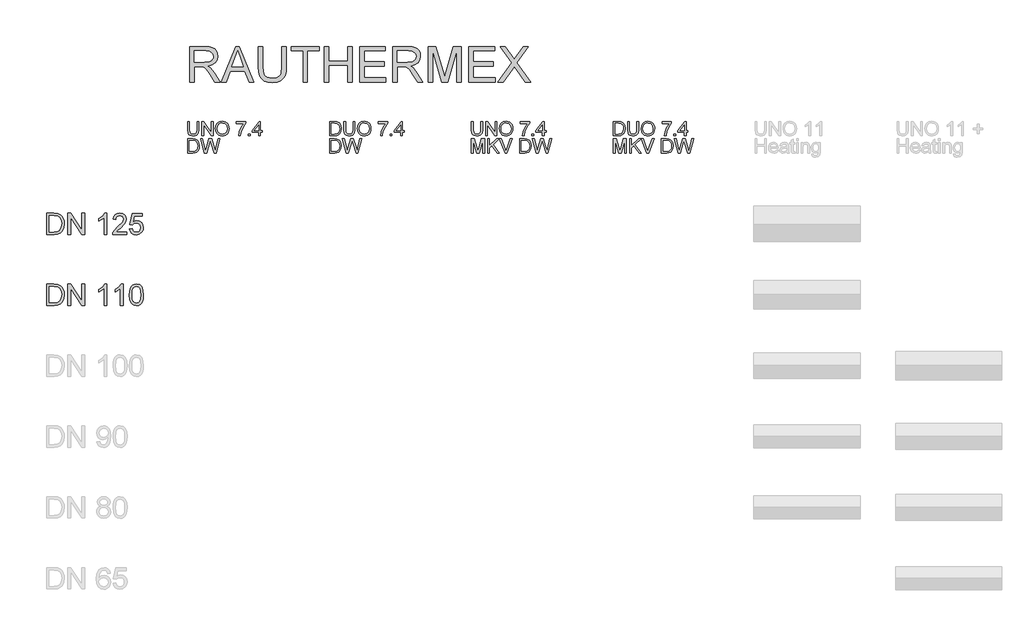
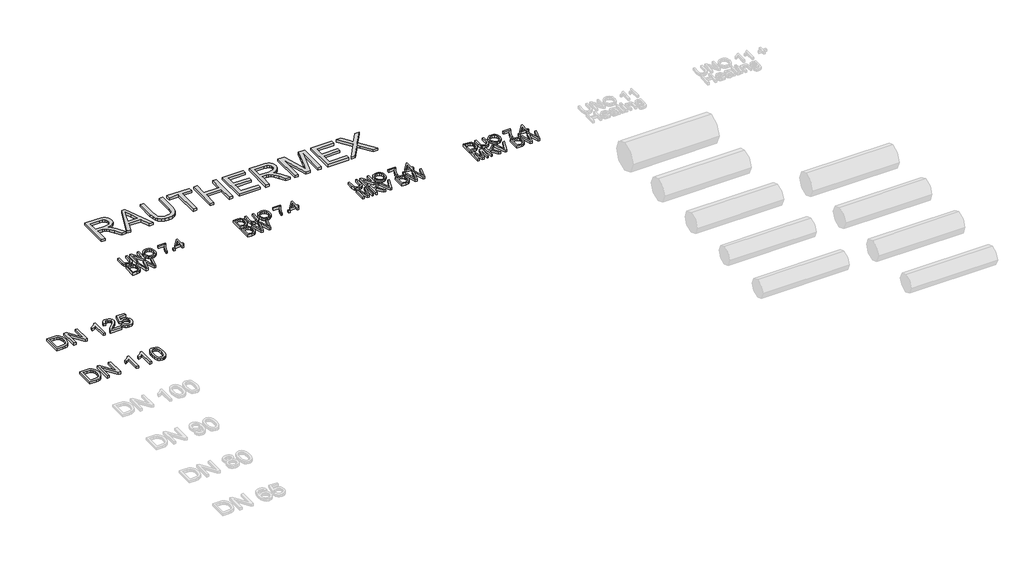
# One storey, part 30 of 44: 7 proxies.
"""IFC4 building model written with IfcOpenShell, lengths in millimetres."""

from ifc_helpers import new_model, si_unit, origin, origin_with_axes, place, context, project, spatial, polyline, outline, extrude, element, save

model = new_model("IFC4")

# Units and contexts
model_context = context("Model", 3, world=origin())
ifc_project = project(units=[si_unit("LENGTHUNIT", "METRE", prefix="MILLI")], contexts=[model_context])

# Site, building, storey
site = spatial("IfcSite", under=ifc_project)
building = spatial("IfcBuilding", under=site)
storey = spatial("IfcBuildingStorey", under=building, Name="REHAU Starting view", Elevation=0.0)

# Proxies
placement = place(None, origin())
element("IfcBuildingElementProxy", 1, Name="100", ObjectType="100", at=placement, inside=storey, context=model_context, shape_type="SweptSolid", body=[
    extrude(outline(polyline([(1076.9118625, 20222.431128), (1089.4689012, 20222.431128), (1089.4689012, 20164.477451), (1086.0598614, 20140.4547567), (1073.7726028, 20125.9847316), (1063.5086951, 20121.8000739), (1050.4734097, 20120.405188), (1027.529836, 20125.2612303), (1019.8901532, 20131.2055902), (1014.8011189, 20139.3265853), (1010.9874089, 20164.477451), (1010.9874089, 20222.431128), (1023.5444477, 20222.431128), (1023.5444477, 20164.9189094), (1026.0215198, 20145.7767829), (1034.5318566, 20136.2976902), (1049.2961874, 20132.9622268), (1062.067824, 20134.6115644), (1070.5597667, 20139.5595772), (1075.3238385, 20149.1980855), (1076.9118625, 20164.9189094), (1076.9118625, 20222.431128)])), origin_with_axes(), (0.0, 0.0, 1.0), 20.0),
    extrude(outline(polyline([(1111.4437191, 20121.9748178), (1111.4437191, 20222.431128), (1124.8836746, 20222.431128), (1177.3681726, 20142.8459897), (1177.3681726, 20222.431128), (1189.9252114, 20222.431128), (1189.9252114, 20121.9748178), (1176.4852558, 20121.9748178), (1124.0007578, 20201.5844816), (1124.0007578, 20121.9748178), (1111.4437191, 20121.9748178)])), origin_with_axes(), (0.0, 0.0, 1.0), 20.0),
    extrude(outline(polyline([(1207.1911397, 20170.8785977), (1210.5388658, 20193.0925389), (1220.5820443, 20209.8986147), (1235.9165921, 20220.4752221), (1255.1384264, 20224.0007578), (1268.3147332, 20222.3452889), (1280.1298766, 20217.3788819), (1289.9400631, 20209.4510249), (1297.1014993, 20198.9112058), (1301.479295, 20186.2683279), (1302.9385603, 20172.0312947), (1301.402653, 20157.6041891), (1296.794931, 20144.7835015), (1289.369846, 20134.2252883), (1279.3818499, 20126.5856055), (1267.667874, 20121.9502924), (1255.06485, 20120.405188), (1241.6862081, 20122.1127736), (1229.8036197, 20127.2355304), (1220.0179586, 20135.3105402), (1212.9300988, 20145.8748848), (1207.1911397, 20170.8785977)]), holes=[polyline([(1219.7481785, 20170.7559704), (1222.2589731, 20155.0412778), (1229.7913569, 20143.0667189), (1241.1129253, 20135.4883498), (1254.9912736, 20132.9622268), (1269.071957, 20135.5128753), (1280.4119195, 20143.1648208), (1287.889121, 20155.5072617), (1290.3815215, 20172.1293965), (1286.1140904, 20192.8534156), (1273.6428907, 20206.575414), (1255.2120028, 20211.4437191), (1241.7046022, 20209.0984714), (1230.2205526, 20202.0627282), (1222.366272, 20189.5455433), (1219.7481785, 20170.7559704)])]), origin_with_axes(), (0.0, 0.0, 1.0), 20.0),
    extrude(outline(polyline([(1354.7363452, 20208.3044594), (1354.7363452, 20220.8614981), (1420.6607988, 20220.8614981), (1420.6607988, 20210.7079551), (1401.9601307, 20183.6931539), (1387.6495211, 20149.2716619), (1382.9896824, 20121.9748178), (1370.4326437, 20121.9748178), (1375.4235761, 20150.3017315), (1389.121049, 20182.3197278), (1408.10376, 20208.3044594), (1354.7363452, 20208.3044594)])), origin_with_axes(), (0.0, 0.0, 1.0), 20.0),
    extrude(outline(polyline([(1437.9267271, 20121.9748178), (1437.9267271, 20134.5318566), (1450.4837658, 20134.5318566), (1450.4837658, 20121.9748178), (1437.9267271, 20121.9748178)])), origin_with_axes(), (0.0, 0.0, 1.0), 20.0),
    extrude(outline(polyline([(1511.6993298, 20121.9748178), (1511.6993298, 20145.5192655), (1466.1800643, 20145.5192655), (1466.1800643, 20158.0763043), (1514.8385895, 20220.8614981), (1524.2563686, 20220.8614981), (1524.2563686, 20158.0763043), (1536.8134074, 20158.0763043), (1536.8134074, 20145.5192655), (1524.2563686, 20145.5192655), (1524.2563686, 20121.9748178), (1511.6993298, 20121.9748178)]), holes=[polyline([(1511.6993298, 20158.0763043), (1511.6993298, 20196.8755921), (1481.6311081, 20158.0763043), (1511.6993298, 20158.0763043)])]), origin_with_axes(), (0.0, 0.0, 1.0), 20.0),
    extrude(outline(polyline([(1010.9874089, 20000.0), (1010.9874089, 20100.4563101), (1045.6418929, 20100.4563101), (1063.5700088, 20099.0093076), (1078.3343395, 20091.823346), (1090.2291907, 20074.6555196), (1094.1777908, 20050.7677153), (1091.5045149, 20030.4974174), (1084.6373844, 20015.8679767), (1075.4648599, 20006.756766), (1063.4596442, 20001.7167826), (1047.3096246, 20000.0), (1010.9874089, 20000.0)]), holes=[polyline([(1023.5444477, 20012.5570388), (1045.7645202, 20012.5570388), (1061.9268025, 20014.3719233), (1071.2464797, 20019.4977457), (1078.8861625, 20031.9689454), (1081.620752, 20050.9639191), (1080.2810484, 20064.6491293), (1076.2619376, 20074.7536214), (1063.2266522, 20085.8881831), (1045.4211637, 20087.8992714), (1023.5444477, 20087.8992714), (1023.5444477, 20012.5570388)])]), origin_with_axes(), (0.0, 0.0, 1.0), 20.0),
    extrude(outline(polyline([(1129.4208859, 20000.0), (1102.02594, 20100.4563101), (1114.9753862, 20100.4563101), (1130.8678884, 20034.4337547), (1135.7729817, 20014.0530922), (1141.0214315, 20032.07931), (1160.9361102, 20100.4563101), (1179.59999, 20100.4563101), (1194.0700152, 20050.8903427), (1204.8366949, 20014.0530922), (1209.5946354, 20033.8451436), (1225.6342904, 20100.4563101), (1238.5837366, 20100.4563101), (1211.1642652, 20000.0), (1197.7488351, 20000.0), (1173.6648272, 20077.5004737), (1170.3048383, 20088.3162043), (1166.5279165, 20075.2931817), (1144.5776241, 20000.0), (1129.4208859, 20000.0)])), origin_with_axes(), (0.0, 0.0, 1.0), 20.0),
])
element("IfcBuildingElementProxy", 2, Name="100", ObjectType="100", at=placement, inside=storey, context=model_context, shape_type="SweptSolid", body=[
    extrude(outline(polyline([(2010.9874089, 20121.9748178), (2010.9874089, 20222.431128), (2045.6418929, 20222.431128), (2063.5700088, 20220.9841255), (2078.3343395, 20213.7981638), (2090.2291907, 20196.6303374), (2094.1777908, 20172.7425332), (2091.5045149, 20152.4722352), (2084.6373844, 20137.8427946), (2075.4648599, 20128.7315838), (2063.4596442, 20123.6916005), (2047.3096246, 20121.9748178), (2010.9874089, 20121.9748178)]), holes=[polyline([(2023.5444477, 20134.5318566), (2045.7645202, 20134.5318566), (2061.9268025, 20136.3467411), (2071.2464797, 20141.4725636), (2078.8861625, 20153.9437632), (2081.620752, 20172.9387369), (2080.2810484, 20186.6239471), (2076.2619376, 20196.7284393), (2063.2266522, 20207.863001), (2045.4211637, 20209.8740892), (2023.5444477, 20209.8740892), (2023.5444477, 20134.5318566)])]), origin_with_axes(), (0.0, 0.0, 1.0), 20.0),
    extrude(outline(polyline([(2177.3681726, 20222.431128), (2189.9252114, 20222.431128), (2189.9252114, 20164.477451), (2186.5161716, 20140.4547567), (2174.2289129, 20125.9847316), (2163.9650053, 20121.8000739), (2150.9297199, 20120.405188), (2127.9861461, 20125.2612303), (2120.3464634, 20131.2055902), (2115.2574291, 20139.3265853), (2111.4437191, 20164.477451), (2111.4437191, 20222.431128), (2124.0007578, 20222.431128), (2124.0007578, 20164.9189094), (2126.4778299, 20145.7767829), (2134.9881668, 20136.2976902), (2149.7524975, 20132.9622268), (2162.5241341, 20134.6115644), (2171.0160768, 20139.5595772), (2175.7801487, 20149.1980855), (2177.3681726, 20164.9189094), (2177.3681726, 20222.431128)])), origin_with_axes(), (0.0, 0.0, 1.0), 20.0),
    extrude(outline(polyline([(2207.1911397, 20170.8785977), (2210.5388658, 20193.0925389), (2220.5820443, 20209.8986147), (2235.9165921, 20220.4752221), (2255.1384264, 20224.0007578), (2268.3147332, 20222.3452889), (2280.1298766, 20217.3788819), (2289.9400631, 20209.4510249), (2297.1014993, 20198.9112058), (2301.479295, 20186.2683279), (2302.9385603, 20172.0312947), (2301.402653, 20157.6041891), (2296.794931, 20144.7835015), (2289.369846, 20134.2252883), (2279.3818499, 20126.5856055), (2267.667874, 20121.9502924), (2255.06485, 20120.405188), (2241.6862081, 20122.1127736), (2229.8036197, 20127.2355304), (2220.0179586, 20135.3105402), (2212.9300988, 20145.8748848), (2207.1911397, 20170.8785977)]), holes=[polyline([(2219.7481785, 20170.7559704), (2222.2589731, 20155.0412778), (2229.7913569, 20143.0667189), (2241.1129253, 20135.4883498), (2254.9912736, 20132.9622268), (2269.071957, 20135.5128753), (2280.4119195, 20143.1648208), (2287.889121, 20155.5072617), (2290.3815215, 20172.1293965), (2286.1140904, 20192.8534156), (2273.6428907, 20206.575414), (2255.2120028, 20211.4437191), (2241.7046022, 20209.0984714), (2230.2205526, 20202.0627282), (2222.366272, 20189.5455433), (2219.7481785, 20170.7559704)])]), origin_with_axes(), (0.0, 0.0, 1.0), 20.0),
    extrude(outline(polyline([(2354.7363452, 20208.3044594), (2354.7363452, 20220.8614981), (2420.6607988, 20220.8614981), (2420.6607988, 20210.7079551), (2401.9601307, 20183.6931539), (2387.6495211, 20149.2716619), (2382.9896824, 20121.9748178), (2370.4326437, 20121.9748178), (2375.4235761, 20150.3017315), (2389.121049, 20182.3197278), (2408.10376, 20208.3044594), (2354.7363452, 20208.3044594)])), origin_with_axes(), (0.0, 0.0, 1.0), 20.0),
    extrude(outline(polyline([(2437.9267271, 20121.9748178), (2437.9267271, 20134.5318566), (2450.4837658, 20134.5318566), (2450.4837658, 20121.9748178), (2437.9267271, 20121.9748178)])), origin_with_axes(), (0.0, 0.0, 1.0), 20.0),
    extrude(outline(polyline([(2511.6993298, 20121.9748178), (2511.6993298, 20145.5192655), (2466.1800643, 20145.5192655), (2466.1800643, 20158.0763043), (2514.8385895, 20220.8614981), (2524.2563686, 20220.8614981), (2524.2563686, 20158.0763043), (2536.8134074, 20158.0763043), (2536.8134074, 20145.5192655), (2524.2563686, 20145.5192655), (2524.2563686, 20121.9748178), (2511.6993298, 20121.9748178)]), holes=[polyline([(2511.6993298, 20158.0763043), (2511.6993298, 20196.8755921), (2481.6311081, 20158.0763043), (2511.6993298, 20158.0763043)])]), origin_with_axes(), (0.0, 0.0, 1.0), 20.0),
    extrude(outline(polyline([(2010.9874089, 20000.0), (2010.9874089, 20100.4563101), (2045.6418929, 20100.4563101), (2063.5700088, 20099.0093076), (2078.3343395, 20091.823346), (2090.2291907, 20074.6555196), (2094.1777908, 20050.7677153), (2091.5045149, 20030.4974174), (2084.6373844, 20015.8679767), (2075.4648599, 20006.756766), (2063.4596442, 20001.7167826), (2047.3096246, 20000.0), (2010.9874089, 20000.0)]), holes=[polyline([(2023.5444477, 20012.5570388), (2045.7645202, 20012.5570388), (2061.9268025, 20014.3719233), (2071.2464797, 20019.4977457), (2078.8861625, 20031.9689454), (2081.620752, 20050.9639191), (2080.2810484, 20064.6491293), (2076.2619376, 20074.7536214), (2063.2266522, 20085.8881831), (2045.4211637, 20087.8992714), (2023.5444477, 20087.8992714), (2023.5444477, 20012.5570388)])]), origin_with_axes(), (0.0, 0.0, 1.0), 20.0),
    extrude(outline(polyline([(2129.4208859, 20000.0), (2102.02594, 20100.4563101), (2114.9753862, 20100.4563101), (2130.8678884, 20034.4337547), (2135.7729817, 20014.0530922), (2141.0214315, 20032.07931), (2160.9361102, 20100.4563101), (2179.59999, 20100.4563101), (2194.0700152, 20050.8903427), (2204.8366949, 20014.0530922), (2209.5946354, 20033.8451436), (2225.6342904, 20100.4563101), (2238.5837366, 20100.4563101), (2211.1642652, 20000.0), (2197.7488351, 20000.0), (2173.6648272, 20077.5004737), (2170.3048383, 20088.3162043), (2166.5279165, 20075.2931817), (2144.5776241, 20000.0), (2129.4208859, 20000.0)])), origin_with_axes(), (0.0, 0.0, 1.0), 20.0),
])
element("IfcBuildingElementProxy", 3, Name="100", ObjectType="100", at=placement, inside=storey, context=model_context, shape_type="SweptSolid", body=[
    extrude(outline(polyline([(3076.9118625, 20222.431128), (3089.4689012, 20222.431128), (3089.4689012, 20164.477451), (3086.0598614, 20140.4547567), (3073.7726028, 20125.9847316), (3063.5086951, 20121.8000739), (3050.4734097, 20120.405188), (3027.529836, 20125.2612303), (3019.8901532, 20131.2055902), (3014.8011189, 20139.3265853), (3010.9874089, 20164.477451), (3010.9874089, 20222.431128), (3023.5444477, 20222.431128), (3023.5444477, 20164.9189094), (3026.0215198, 20145.7767829), (3034.5318566, 20136.2976902), (3049.2961874, 20132.9622268), (3062.067824, 20134.6115644), (3070.5597667, 20139.5595772), (3075.3238385, 20149.1980855), (3076.9118625, 20164.9189094), (3076.9118625, 20222.431128)])), origin_with_axes(), (0.0, 0.0, 1.0), 20.0),
    extrude(outline(polyline([(3111.4437191, 20121.9748178), (3111.4437191, 20222.431128), (3124.8836746, 20222.431128), (3177.3681726, 20142.8459897), (3177.3681726, 20222.431128), (3189.9252114, 20222.431128), (3189.9252114, 20121.9748178), (3176.4852558, 20121.9748178), (3124.0007578, 20201.5844816), (3124.0007578, 20121.9748178), (3111.4437191, 20121.9748178)])), origin_with_axes(), (0.0, 0.0, 1.0), 20.0),
    extrude(outline(polyline([(3207.1911397, 20170.8785977), (3210.5388658, 20193.0925389), (3220.5820443, 20209.8986147), (3235.9165921, 20220.4752221), (3255.1384264, 20224.0007578), (3268.3147332, 20222.3452889), (3280.1298766, 20217.3788819), (3289.9400631, 20209.4510249), (3297.1014993, 20198.9112058), (3301.479295, 20186.2683279), (3302.9385603, 20172.0312947), (3301.402653, 20157.6041891), (3296.794931, 20144.7835015), (3289.369846, 20134.2252883), (3279.3818499, 20126.5856055), (3267.667874, 20121.9502924), (3255.06485, 20120.405188), (3241.6862081, 20122.1127736), (3229.8036197, 20127.2355304), (3220.0179586, 20135.3105402), (3212.9300988, 20145.8748848), (3207.1911397, 20170.8785977)]), holes=[polyline([(3219.7481785, 20170.7559704), (3222.2589731, 20155.0412778), (3229.7913569, 20143.0667189), (3241.1129253, 20135.4883498), (3254.9912736, 20132.9622268), (3269.071957, 20135.5128753), (3280.4119195, 20143.1648208), (3287.889121, 20155.5072617), (3290.3815215, 20172.1293965), (3286.1140904, 20192.8534156), (3273.6428907, 20206.575414), (3255.2120028, 20211.4437191), (3241.7046022, 20209.0984714), (3230.2205526, 20202.0627282), (3222.366272, 20189.5455433), (3219.7481785, 20170.7559704)])]), origin_with_axes(), (0.0, 0.0, 1.0), 20.0),
    extrude(outline(polyline([(3354.7363452, 20208.3044594), (3354.7363452, 20220.8614981), (3420.6607988, 20220.8614981), (3420.6607988, 20210.7079551), (3401.9601307, 20183.6931539), (3387.6495211, 20149.2716619), (3382.9896824, 20121.9748178), (3370.4326437, 20121.9748178), (3375.4235761, 20150.3017315), (3389.121049, 20182.3197278), (3408.10376, 20208.3044594), (3354.7363452, 20208.3044594)])), origin_with_axes(), (0.0, 0.0, 1.0), 20.0),
    extrude(outline(polyline([(3437.9267271, 20121.9748178), (3437.9267271, 20134.5318566), (3450.4837658, 20134.5318566), (3450.4837658, 20121.9748178), (3437.9267271, 20121.9748178)])), origin_with_axes(), (0.0, 0.0, 1.0), 20.0),
    extrude(outline(polyline([(3511.6993298, 20121.9748178), (3511.6993298, 20145.5192655), (3466.1800643, 20145.5192655), (3466.1800643, 20158.0763043), (3514.8385895, 20220.8614981), (3524.2563686, 20220.8614981), (3524.2563686, 20158.0763043), (3536.8134074, 20158.0763043), (3536.8134074, 20145.5192655), (3524.2563686, 20145.5192655), (3524.2563686, 20121.9748178), (3511.6993298, 20121.9748178)]), holes=[polyline([(3511.6993298, 20158.0763043), (3511.6993298, 20196.8755921), (3481.6311081, 20158.0763043), (3511.6993298, 20158.0763043)])]), origin_with_axes(), (0.0, 0.0, 1.0), 20.0),
    extrude(outline(polyline([(3010.9874089, 20000.0), (3010.9874089, 20100.4563101), (3032.5943448, 20100.4563101), (3053.1466856, 20029.6512888), (3057.2914894, 20014.8624326), (3061.7796497, 20030.8775621), (3081.988634, 20100.4563101), (3103.5955698, 20100.4563101), (3103.5955698, 20000.0), (3091.0385311, 20000.0), (3091.0385311, 20087.8992714), (3065.8018262, 20000.0), (3048.7811526, 20000.0), (3023.5444477, 20087.8992714), (3023.5444477, 20000.0), (3010.9874089, 20000.0)])), origin_with_axes(), (0.0, 0.0, 1.0), 20.0),
    extrude(outline(polyline([(3247.8543629, 20000.0), (3207.8778527, 20100.4563101), (3221.3178083, 20100.4563101), (3248.0750921, 20028.081659), (3253.4952201, 20011.7722238), (3258.8417718, 20028.081659), (3285.672632, 20100.4563101), (3299.1125875, 20100.4563101), (3260.8283346, 20000.0), (3247.8543629, 20000.0)])), origin_with_axes(), (0.0, 0.0, 1.0), 20.0),
    extrude(outline(polyline([(3125.5703877, 20000.0), (3125.5703877, 20100.4563101), (3138.1274265, 20100.4563101), (3138.1274265, 20051.2827501), (3189.6309058, 20100.4563101), (3207.1911397, 20100.4563101), (3163.9527425, 20059.1554248), (3208.7607695, 20000.0), (3193.4078276, 20000.0), (3155.0499982, 20050.6696135), (3138.1274265, 20034.5318566), (3138.1274265, 20000.0), (3125.5703877, 20000.0)])), origin_with_axes(), (0.0, 0.0, 1.0), 20.0),
    extrude(outline(polyline([(3350.0274557, 20000.0), (3350.0274557, 20100.4563101), (3384.6819396, 20100.4563101), (3402.6100555, 20099.0093076), (3417.3743863, 20091.823346), (3429.2692374, 20074.6555196), (3433.2178375, 20050.7677153), (3430.5445617, 20030.4974174), (3423.6774311, 20015.8679767), (3414.5049067, 20006.756766), (3402.4996909, 20001.7167826), (3386.3496713, 20000.0), (3350.0274557, 20000.0)]), holes=[polyline([(3362.5844944, 20012.5570388), (3384.804567, 20012.5570388), (3400.9668493, 20014.3719233), (3410.2865265, 20019.4977457), (3417.9262093, 20031.9689454), (3420.6607988, 20050.9639191), (3419.3210952, 20064.6491293), (3415.3019844, 20074.7536214), (3402.266699, 20085.8881831), (3384.4612104, 20087.8992714), (3362.5844944, 20087.8992714), (3362.5844944, 20012.5570388)])]), origin_with_axes(), (0.0, 0.0, 1.0), 20.0),
    extrude(outline(polyline([(3468.4609327, 20000.0), (3441.0659868, 20100.4563101), (3454.015433, 20100.4563101), (3469.9079352, 20034.4337547), (3474.8130284, 20014.0530922), (3480.0614782, 20032.07931), (3499.9761569, 20100.4563101), (3518.6400368, 20100.4563101), (3533.1100619, 20050.8903427), (3543.8767417, 20014.0530922), (3548.6346821, 20033.8451436), (3564.6743371, 20100.4563101), (3577.6237834, 20100.4563101), (3550.204312, 20000.0), (3536.7888819, 20000.0), (3512.7048739, 20077.5004737), (3509.3448851, 20088.3162043), (3505.5679632, 20075.2931817), (3483.6176709, 20000.0), (3468.4609327, 20000.0)])), origin_with_axes(), (0.0, 0.0, 1.0), 20.0),
])
element("IfcBuildingElementProxy", 4, Name="100", ObjectType="100", at=placement, inside=storey, context=model_context, shape_type="SweptSolid", body=[
    extrude(outline(polyline([(4010.9874089, 20121.9748178), (4010.9874089, 20222.431128), (4045.6418929, 20222.431128), (4063.5700088, 20220.9841255), (4078.3343395, 20213.7981638), (4090.2291907, 20196.6303374), (4094.1777908, 20172.7425332), (4091.5045149, 20152.4722352), (4084.6373844, 20137.8427946), (4075.4648599, 20128.7315838), (4063.4596442, 20123.6916005), (4047.3096246, 20121.9748178), (4010.9874089, 20121.9748178)]), holes=[polyline([(4023.5444477, 20134.5318566), (4045.7645202, 20134.5318566), (4061.9268025, 20136.3467411), (4071.2464797, 20141.4725636), (4078.8861625, 20153.9437632), (4081.620752, 20172.9387369), (4080.2810484, 20186.6239471), (4076.2619376, 20196.7284393), (4063.2266522, 20207.863001), (4045.4211637, 20209.8740892), (4023.5444477, 20209.8740892), (4023.5444477, 20134.5318566)])]), origin_with_axes(), (0.0, 0.0, 1.0), 20.0),
    extrude(outline(polyline([(4177.3681726, 20222.431128), (4189.9252114, 20222.431128), (4189.9252114, 20164.477451), (4186.5161716, 20140.4547567), (4174.2289129, 20125.9847316), (4163.9650053, 20121.8000739), (4150.9297199, 20120.405188), (4127.9861461, 20125.2612303), (4120.3464634, 20131.2055902), (4115.2574291, 20139.3265853), (4111.4437191, 20164.477451), (4111.4437191, 20222.431128), (4124.0007578, 20222.431128), (4124.0007578, 20164.9189094), (4126.4778299, 20145.7767829), (4134.9881668, 20136.2976902), (4149.7524975, 20132.9622268), (4162.5241341, 20134.6115644), (4171.0160768, 20139.5595772), (4175.7801487, 20149.1980855), (4177.3681726, 20164.9189094), (4177.3681726, 20222.431128)])), origin_with_axes(), (0.0, 0.0, 1.0), 20.0),
    extrude(outline(polyline([(4207.1911397, 20170.8785977), (4210.5388658, 20193.0925389), (4220.5820443, 20209.8986147), (4235.9165921, 20220.4752221), (4255.1384264, 20224.0007578), (4268.3147332, 20222.3452889), (4280.1298766, 20217.3788819), (4289.9400631, 20209.4510249), (4297.1014993, 20198.9112058), (4301.479295, 20186.2683279), (4302.9385603, 20172.0312947), (4301.402653, 20157.6041891), (4296.794931, 20144.7835015), (4289.369846, 20134.2252883), (4279.3818499, 20126.5856055), (4267.667874, 20121.9502924), (4255.06485, 20120.405188), (4241.6862081, 20122.1127736), (4229.8036197, 20127.2355304), (4220.0179586, 20135.3105402), (4212.9300988, 20145.8748848), (4207.1911397, 20170.8785977)]), holes=[polyline([(4219.7481785, 20170.7559704), (4222.2589731, 20155.0412778), (4229.7913569, 20143.0667189), (4241.1129253, 20135.4883498), (4254.9912736, 20132.9622268), (4269.071957, 20135.5128753), (4280.4119195, 20143.1648208), (4287.889121, 20155.5072617), (4290.3815215, 20172.1293965), (4286.1140904, 20192.8534156), (4273.6428907, 20206.575414), (4255.2120028, 20211.4437191), (4241.7046022, 20209.0984714), (4230.2205526, 20202.0627282), (4222.366272, 20189.5455433), (4219.7481785, 20170.7559704)])]), origin_with_axes(), (0.0, 0.0, 1.0), 20.0),
    extrude(outline(polyline([(4354.7363452, 20208.3044594), (4354.7363452, 20220.8614981), (4420.6607988, 20220.8614981), (4420.6607988, 20210.7079551), (4401.9601307, 20183.6931539), (4387.6495211, 20149.2716619), (4382.9896824, 20121.9748178), (4370.4326437, 20121.9748178), (4375.4235761, 20150.3017315), (4389.121049, 20182.3197278), (4408.10376, 20208.3044594), (4354.7363452, 20208.3044594)])), origin_with_axes(), (0.0, 0.0, 1.0), 20.0),
    extrude(outline(polyline([(4437.9267271, 20121.9748178), (4437.9267271, 20134.5318566), (4450.4837658, 20134.5318566), (4450.4837658, 20121.9748178), (4437.9267271, 20121.9748178)])), origin_with_axes(), (0.0, 0.0, 1.0), 20.0),
    extrude(outline(polyline([(4511.6993298, 20121.9748178), (4511.6993298, 20145.5192655), (4466.1800643, 20145.5192655), (4466.1800643, 20158.0763043), (4514.8385895, 20220.8614981), (4524.2563686, 20220.8614981), (4524.2563686, 20158.0763043), (4536.8134074, 20158.0763043), (4536.8134074, 20145.5192655), (4524.2563686, 20145.5192655), (4524.2563686, 20121.9748178), (4511.6993298, 20121.9748178)]), holes=[polyline([(4511.6993298, 20158.0763043), (4511.6993298, 20196.8755921), (4481.6311081, 20158.0763043), (4511.6993298, 20158.0763043)])]), origin_with_axes(), (0.0, 0.0, 1.0), 20.0),
    extrude(outline(polyline([(4010.9874089, 20000.0), (4010.9874089, 20100.4563101), (4032.5943448, 20100.4563101), (4053.1466856, 20029.6512888), (4057.2914894, 20014.8624326), (4061.7796497, 20030.8775621), (4081.988634, 20100.4563101), (4103.5955698, 20100.4563101), (4103.5955698, 20000.0), (4091.0385311, 20000.0), (4091.0385311, 20087.8992714), (4065.8018262, 20000.0), (4048.7811526, 20000.0), (4023.5444477, 20087.8992714), (4023.5444477, 20000.0), (4010.9874089, 20000.0)])), origin_with_axes(), (0.0, 0.0, 1.0), 20.0),
    extrude(outline(polyline([(4247.8543629, 20000.0), (4207.8778527, 20100.4563101), (4221.3178083, 20100.4563101), (4248.0750921, 20028.081659), (4253.4952201, 20011.7722238), (4258.8417718, 20028.081659), (4285.672632, 20100.4563101), (4299.1125875, 20100.4563101), (4260.8283346, 20000.0), (4247.8543629, 20000.0)])), origin_with_axes(), (0.0, 0.0, 1.0), 20.0),
    extrude(outline(polyline([(4125.5703877, 20000.0), (4125.5703877, 20100.4563101), (4138.1274265, 20100.4563101), (4138.1274265, 20051.2827501), (4189.6309058, 20100.4563101), (4207.1911397, 20100.4563101), (4163.9527425, 20059.1554248), (4208.7607695, 20000.0), (4193.4078276, 20000.0), (4155.0499982, 20050.6696135), (4138.1274265, 20034.5318566), (4138.1274265, 20000.0), (4125.5703877, 20000.0)])), origin_with_axes(), (0.0, 0.0, 1.0), 20.0),
    extrude(outline(polyline([(4350.0274557, 20000.0), (4350.0274557, 20100.4563101), (4384.6819396, 20100.4563101), (4402.6100555, 20099.0093076), (4417.3743863, 20091.823346), (4429.2692374, 20074.6555196), (4433.2178375, 20050.7677153), (4430.5445617, 20030.4974174), (4423.6774311, 20015.8679767), (4414.5049067, 20006.756766), (4402.4996909, 20001.7167826), (4386.3496713, 20000.0), (4350.0274557, 20000.0)]), holes=[polyline([(4362.5844944, 20012.5570388), (4384.804567, 20012.5570388), (4400.9668493, 20014.3719233), (4410.2865265, 20019.4977457), (4417.9262093, 20031.9689454), (4420.6607988, 20050.9639191), (4419.3210952, 20064.6491293), (4415.3019844, 20074.7536214), (4402.266699, 20085.8881831), (4384.4612104, 20087.8992714), (4362.5844944, 20087.8992714), (4362.5844944, 20012.5570388)])]), origin_with_axes(), (0.0, 0.0, 1.0), 20.0),
    extrude(outline(polyline([(4468.4609327, 20000.0), (4441.0659868, 20100.4563101), (4454.015433, 20100.4563101), (4469.9079352, 20034.4337547), (4474.8130284, 20014.0530922), (4480.0614782, 20032.07931), (4499.9761569, 20100.4563101), (4518.6400368, 20100.4563101), (4533.1100619, 20050.8903427), (4543.8767417, 20014.0530922), (4548.6346821, 20033.8451436), (4564.6743371, 20100.4563101), (4577.6237834, 20100.4563101), (4550.204312, 20000.0), (4536.7888819, 20000.0), (4512.7048739, 20077.5004737), (4509.3448851, 20088.3162043), (4505.5679632, 20075.2931817), (4483.6176709, 20000.0), (4468.4609327, 20000.0)])), origin_with_axes(), (0.0, 0.0, 1.0), 20.0),
])
element("IfcBuildingElementProxy", 5, Name="150", ObjectType="150", at=placement, inside=storey, context=model_context, shape_type="SweptSolid", body=[
    extrude(outline(polyline([(16.4811134, 18925.0), (16.4811134, 19075.6844652), (68.4628393, 19075.6844652), (95.3550131, 19073.5139615), (117.5015093, 19062.735019), (127.9217668, 19051.2571007), (135.343786, 19036.9832793), (139.7859611, 19020.1894663), (141.2666861, 19001.151573), (137.2567724, 18970.7461261), (126.9560765, 18948.8019651), (113.1972899, 18935.135149), (95.1894663, 18927.575174), (70.9644369, 18925.0), (16.4811134, 18925.0)]), holes=[polyline([(35.3166715, 18943.8355582), (68.6467803, 18943.8355582), (92.8902038, 18946.5578849), (106.8697196, 18954.2466186), (118.3292437, 18972.9534181), (122.431128, 19001.4458786), (120.4215726, 19021.9736939), (114.3929064, 19037.1304321), (105.4855636, 19047.5414926), (94.8399784, 19053.8322747), (68.1317455, 19056.8489071), (35.3166715, 19056.8489071), (35.3166715, 18943.8355582)])]), origin_with_axes(), (0.0, 0.0, 1.0), 20.0),
    extrude(outline(polyline([(167.1655786, 18925.0), (167.1655786, 19075.6844652), (187.3255119, 19075.6844652), (266.0522589, 18956.3067578), (266.0522589, 19075.6844652), (284.8878171, 19075.6844652), (284.8878171, 18925.0), (264.7278837, 18925.0), (186.0011368, 19044.4144956), (186.0011368, 18925.0), (167.1655786, 18925.0)])), origin_with_axes(), (0.0, 0.0, 1.0), 20.0),
    extrude(outline(polyline([(440.2811718, 18925.0), (421.4456137, 18925.0), (421.4456137, 19042.4279329), (403.6033369, 19029.7176099), (383.7744974, 19020.2078604), (383.7744974, 19038.0133489), (411.3840411, 19055.6348965), (428.141066, 19075.6844652), (440.2811718, 19075.6844652), (440.2811718, 18925.0)])), origin_with_axes(), (0.0, 0.0, 1.0), 20.0),
    extrude(outline(polyline([(555.6489655, 18925.0), (536.8134074, 18925.0), (536.8134074, 19042.4279329), (518.9711306, 19029.7176099), (499.1422911, 19020.2078604), (499.1422911, 19038.0133489), (526.7518348, 19055.6348965), (543.5088597, 19075.6844652), (555.6489655, 19075.6844652), (555.6489655, 18925.0)])), origin_with_axes(), (0.0, 0.0, 1.0), 20.0),
    extrude(outline(polyline([(600.3834161, 18999.128222), (601.7675721, 19023.2474853), (605.9200402, 19042.4831152), (612.7994335, 19057.1294171), (622.3643653, 19067.4806967), (634.6838137, 19073.6335231), (649.8267563, 19075.6844652), (671.8260996, 19070.8284229), (687.019626, 19056.830513), (695.8487939, 19034.5368641), (699.2700964, 18999.128222), (697.899736, 18975.1469145), (693.7886547, 18955.9572699), (686.9506481, 18941.2971724), (677.3995118, 18930.904506), (665.0524724, 18924.7102929), (649.8267563, 18922.6455552), (630.2554341, 18926.2324047), (615.3930015, 18936.992953), (604.1358125, 18962.4779783), (600.3834161, 18999.128222)]), holes=[polyline([(619.2189743, 18999.1650102), (621.4262663, 18969.536714), (628.0481422, 18952.3888145), (637.9073796, 18944.2080387), (649.8267563, 18941.4811134), (661.7461329, 18944.2172357), (671.6053704, 18952.4256027), (678.2272463, 18969.5826993), (680.4345383, 18999.1650102), (678.3008227, 19028.1265203), (671.899676, 19045.407777), (662.0588326, 19053.9886246), (649.6060271, 19056.8489071), (637.8154091, 19054.3289154), (628.3424478, 19046.7689404), (621.4998427, 19028.4116288), (619.2189743, 18999.1650102)])]), origin_with_axes(), (0.0, 0.0, 1.0), 20.0),
])
element("IfcBuildingElementProxy", 6, Name="150", ObjectType="150", at=placement, inside=storey, context=model_context, shape_type="SweptSolid", body=[
    extrude(outline(polyline([(16.4811134, 19425.0), (16.4811134, 19575.6844652), (68.4628393, 19575.6844652), (95.3550131, 19573.5139615), (117.5015093, 19562.735019), (127.9217668, 19551.2571007), (135.343786, 19536.9832793), (139.7859611, 19520.1894663), (141.2666861, 19501.151573), (137.2567724, 19470.7461261), (126.9560765, 19448.8019651), (113.1972899, 19435.135149), (95.1894663, 19427.575174), (70.9644369, 19425.0), (16.4811134, 19425.0)]), holes=[polyline([(35.3166715, 19443.8355582), (68.6467803, 19443.8355582), (92.8902038, 19446.5578849), (106.8697196, 19454.2466186), (118.3292437, 19472.9534181), (122.431128, 19501.4458786), (120.4215726, 19521.9736939), (114.3929064, 19537.1304321), (105.4855636, 19547.5414926), (94.8399784, 19553.8322747), (68.1317455, 19556.8489071), (35.3166715, 19556.8489071), (35.3166715, 19443.8355582)])]), origin_with_axes(), (0.0, 0.0, 1.0), 20.0),
    extrude(outline(polyline([(167.1655786, 19425.0), (167.1655786, 19575.6844652), (187.3255119, 19575.6844652), (266.0522589, 19456.3067578), (266.0522589, 19575.6844652), (284.8878171, 19575.6844652), (284.8878171, 19425.0), (264.7278837, 19425.0), (186.0011368, 19544.4144956), (186.0011368, 19425.0), (167.1655786, 19425.0)])), origin_with_axes(), (0.0, 0.0, 1.0), 20.0),
    extrude(outline(polyline([(440.2811718, 19425.0), (421.4456137, 19425.0), (421.4456137, 19542.4279329), (403.6033369, 19529.7176099), (383.7744974, 19520.2078604), (383.7744974, 19538.0133489), (411.3840411, 19555.6348965), (428.141066, 19575.6844652), (440.2811718, 19575.6844652), (440.2811718, 19425.0)])), origin_with_axes(), (0.0, 0.0, 1.0), 20.0),
    extrude(outline(polyline([(581.547858, 19443.8355582), (581.547858, 19425.0), (482.6611777, 19425.0), (484.6845286, 19437.9862344), (496.1256587, 19457.9806209), (519.7068946, 19479.8144173), (552.227663, 19511.1947515), (558.325307, 19522.0104821), (560.3578551, 19532.5319072), (558.4402702, 19541.9634818), (552.6875155, 19549.8039669), (543.844552, 19555.087672), (532.6563408, 19556.8489071), (520.9071096, 19555.1290587), (511.7790376, 19549.9695138), (505.8883271, 19541.7749423), (503.8511806, 19530.9500146), (485.0156224, 19533.3044594), (489.5819577, 19551.5238152), (499.4549908, 19564.8319464), (514.1196868, 19572.9713355), (533.061011, 19575.6844652), (552.140291, 19572.6678329), (566.7773959, 19563.6179358), (576.0894089, 19550.0982725), (579.1934132, 19533.6723414), (575.8456871, 19515.8116705), (564.7172567, 19497.3439944), (537.7331123, 19471.5370724), (516.0648628, 19453.4188841), (507.5667887, 19443.8355582), (581.547858, 19443.8355582)])), origin_with_axes(), (0.0, 0.0, 1.0), 20.0),
    extrude(outline(polyline([(600.3834161, 19465.0255611), (619.2189743, 19467.3800058), (622.677065, 19456.072233), (628.7103298, 19447.9742306), (637.2911773, 19443.1043927), (648.3920165, 19441.4811134), (661.8932857, 19443.7389891), (672.0100406, 19450.5126164), (678.3284139, 19461.0202459), (680.4345383, 19474.4801284), (678.4617711, 19487.1536631), (672.5434695, 19496.8473537), (662.6336482, 19503.00018), (648.6863221, 19505.0511222), (632.1500264, 19501.7769724), (621.5734191, 19493.2788983), (602.7378609, 19495.6333431), (619.2189743, 19573.3300205), (692.2067621, 19573.3300205), (692.2067621, 19554.4944623), (634.4492889, 19554.4944623), (626.3926732, 19512.9973732), (639.8479572, 19521.1643535), (653.9470346, 19523.8866803), (671.5455896, 19520.511363), (686.1551033, 19510.3854111), (695.9913482, 19494.9527614), (699.2700964, 19475.6573507), (696.3178434, 19456.8217926), (687.4610844, 19440.7085612), (670.5017244, 19427.1613067), (648.3184401, 19422.6455552), (629.8185743, 19425.5472245), (615.0803018, 19434.2522322), (604.9773425, 19447.7489029), (600.3834161, 19465.0255611)])), origin_with_axes(), (0.0, 0.0, 1.0), 20.0),
])
element("IfcBuildingElementProxy", 7, Name="250", ObjectType="250", at=placement, inside=storey, context=model_context, shape_type="SweptSolid", body=[
    extrude(outline(polyline([(1027.4685223, 20500.0), (1027.4685223, 20751.1407754), (1135.6871426, 20751.1407754), (1164.7728128, 20749.4469854), (1185.9336917, 20744.3656153), (1201.4000639, 20734.9846244), (1213.402214, 20720.3919719), (1221.1047433, 20702.2967763), (1223.6722531, 20682.4081559), (1219.4186175, 20657.6680918), (1206.6577108, 20637.1586705), (1185.0063225, 20622.121494), (1154.0812423, 20613.7981638), (1171.9235191, 20600.370471), (1197.3686904, 20568.0581691), (1239.2459242, 20500.0), (1202.764293, 20500.0), (1170.0841091, 20552.0553023), (1146.4783477, 20586.5135825), (1129.8930011, 20602.7923608), (1114.9631235, 20608.7704432), (1096.7529647, 20609.8740892), (1058.8611192, 20609.8740892), (1058.8611192, 20500.0), (1027.4685223, 20500.0)]), holes=[polyline([(1058.8611192, 20641.2666861), (1129.1265803, 20641.2666861), (1164.964418, 20645.7119269), (1176.7519703, 20651.4907399), (1185.3205551, 20659.9366974), (1190.5398809, 20670.153087), (1192.2796561, 20681.2431963), (1188.961054, 20696.5562843), (1179.0052475, 20708.8956596), (1161.8757421, 20717.0350487), (1137.0360432, 20719.7481785), (1058.8611192, 20719.7481785), (1058.8611192, 20641.2666861)])]), origin_with_axes(), (0.0, 0.0, 1.0), 20.0),
    extrude(outline(polyline([(1249.3626791, 20500.0), (1349.6105227, 20751.1407754), (1376.3432811, 20751.1407754), (1476.5911248, 20500.0), (1443.4204315, 20500.0), (1414.6643222, 20578.4814923), (1311.2281679, 20578.4814923), (1282.5333723, 20500.0), (1249.3626791, 20500.0)]), holes=[polyline([(1322.7551371, 20609.8740892), (1403.1986667, 20609.8740892), (1380.573924, 20671.6169507), (1362.9769019, 20719.7481785), (1347.3419171, 20677.0125533), (1322.7551371, 20609.8740892)])]), origin_with_axes(), (0.0, 0.0, 1.0), 20.0),
    extrude(outline(polyline([(1674.9408338, 20751.1407754), (1706.3334307, 20751.1407754), (1706.3334307, 20606.2565829), (1704.2027809, 20572.3271331), (1697.8108312, 20546.1998472), (1685.8699948, 20526.0429796), (1667.0926846, 20510.0247844), (1641.4329154, 20499.5631401), (1608.844702, 20496.0759254), (1576.96926, 20499.1109518), (1551.4857676, 20508.2160312), (1532.3865607, 20523.076931), (1519.663975, 20543.3794186), (1512.5132687, 20570.6103504), (1510.1297, 20606.2565829), (1510.1297, 20751.1407754), (1541.5222969, 20751.1407754), (1541.5222969, 20607.3602289), (1543.070467, 20579.1482784), (1547.7149772, 20559.5049127), (1556.1302778, 20545.9009431), (1568.9908192, 20535.8071809), (1585.7601068, 20529.5531869), (1605.9016461, 20527.4685223), (1637.8307376, 20531.5918663), (1659.0605944, 20543.9618984), (1666.0081991, 20554.1093101), (1670.970774, 20568.0581691), (1674.9408338, 20607.3602289), (1674.9408338, 20751.1407754)])), origin_with_axes(), (0.0, 0.0, 1.0), 20.0),
    extrude(outline(polyline([(1824.0556692, 20500.0), (1824.0556692, 20719.7481785), (1741.6501023, 20719.7481785), (1741.6501023, 20751.1407754), (1937.853833, 20751.1407754), (1937.853833, 20719.7481785), (1855.4482661, 20719.7481785), (1855.4482661, 20500.0), (1824.0556692, 20500.0)])), origin_with_axes(), (0.0, 0.0, 1.0), 20.0),
    extrude(outline(polyline([(1973.1705046, 20500.0), (1973.1705046, 20751.1407754), (2004.5631015, 20751.1407754), (2004.5631015, 20649.1148354), (2137.9816384, 20649.1148354), (2137.9816384, 20751.1407754), (2169.3742353, 20751.1407754), (2169.3742353, 20500.0), (2137.9816384, 20500.0), (2137.9816384, 20617.7222385), (2004.5631015, 20617.7222385), (2004.5631015, 20500.0), (1973.1705046, 20500.0)])), origin_with_axes(), (0.0, 0.0, 1.0), 20.0),
    extrude(outline(polyline([(2224.3112799, 20500.0), (2224.3112799, 20751.1407754), (2404.8187122, 20751.1407754), (2404.8187122, 20719.7481785), (2255.7038769, 20719.7481785), (2255.7038769, 20645.1907608), (2396.970563, 20645.1907608), (2396.970563, 20613.7981638), (2255.7038769, 20613.7981638), (2255.7038769, 20531.3925969), (2408.7427869, 20531.3925969), (2408.7427869, 20500.0), (2224.3112799, 20500.0)])), origin_with_axes(), (0.0, 0.0, 1.0), 20.0),
    extrude(outline(polyline([(2455.8316822, 20500.0), (2455.8316822, 20751.1407754), (2564.0503025, 20751.1407754), (2593.1359727, 20749.4469854), (2614.2968517, 20744.3656153), (2629.7632239, 20734.9846244), (2641.765374, 20720.3919719), (2649.4679032, 20702.2967763), (2652.035413, 20682.4081559), (2647.7817774, 20657.6680918), (2635.0208707, 20637.1586705), (2613.3694825, 20622.121494), (2582.4444023, 20613.7981638), (2600.286679, 20600.370471), (2625.7318504, 20568.0581691), (2667.6090841, 20500.0), (2631.1274529, 20500.0), (2598.447269, 20552.0553023), (2574.8415077, 20586.5135825), (2558.2561611, 20602.7923608), (2543.3262834, 20608.7704432), (2525.1161247, 20609.8740892), (2487.2242792, 20609.8740892), (2487.2242792, 20500.0), (2455.8316822, 20500.0)]), holes=[polyline([(2487.2242792, 20641.2666861), (2557.4897402, 20641.2666861), (2593.3275779, 20645.7119269), (2605.1151302, 20651.4907399), (2613.683715, 20659.9366974), (2618.9030408, 20670.153087), (2620.6428161, 20681.2431963), (2617.3242139, 20696.5562843), (2607.3684074, 20708.8956596), (2590.238902, 20717.0350487), (2565.3992031, 20719.7481785), (2487.2242792, 20719.7481785), (2487.2242792, 20641.2666861)])]), origin_with_axes(), (0.0, 0.0, 1.0), 20.0),
    extrude(outline(polyline([(2706.9724576, 20500.0), (2706.9724576, 20751.1407754), (2760.9897972, 20751.1407754), (2812.3706492, 20574.128222), (2822.7326588, 20537.1560815), (2833.9530596, 20577.1939053), (2884.4755203, 20751.1407754), (2938.4928599, 20751.1407754), (2938.4928599, 20500.0), (2907.100263, 20500.0), (2907.100263, 20719.7481785), (2844.0085008, 20500.0), (2801.4568167, 20500.0), (2738.3650545, 20719.7481785), (2738.3650545, 20500.0), (2706.9724576, 20500.0)])), origin_with_axes(), (0.0, 0.0, 1.0), 20.0),
    extrude(outline(polyline([(2993.4299045, 20500.0), (2993.4299045, 20751.1407754), (3173.9373368, 20751.1407754), (3173.9373368, 20719.7481785), (3024.8225015, 20719.7481785), (3024.8225015, 20645.1907608), (3166.0891876, 20645.1907608), (3166.0891876, 20613.7981638), (3024.8225015, 20613.7981638), (3024.8225015, 20531.3925969), (3177.8614114, 20531.3925969), (3177.8614114, 20500.0), (2993.4299045, 20500.0)])), origin_with_axes(), (0.0, 0.0, 1.0), 20.0),
    extrude(outline(polyline([(3197.4817845, 20500.0), (3294.2960629, 20636.8521022), (3213.178083, 20751.1407754), (3250.8246738, 20751.1407754), (3296.5033549, 20686.8227399), (3311.893085, 20661.7454505), (3329.9193028, 20687.2519355), (3375.1074745, 20751.1407754), (3413.3058884, 20751.1407754), (3332.1879084, 20636.4842202), (3429.0021868, 20500.0), (3391.355596, 20500.0), (3326.8536195, 20590.9894801), (3313.4259267, 20609.8740892), (3298.6493332, 20589.1500702), (3235.6801984, 20500.0), (3197.4817845, 20500.0)])), origin_with_axes(), (0.0, 0.0, 1.0), 20.0),
])

save(model, "model.ifc")
